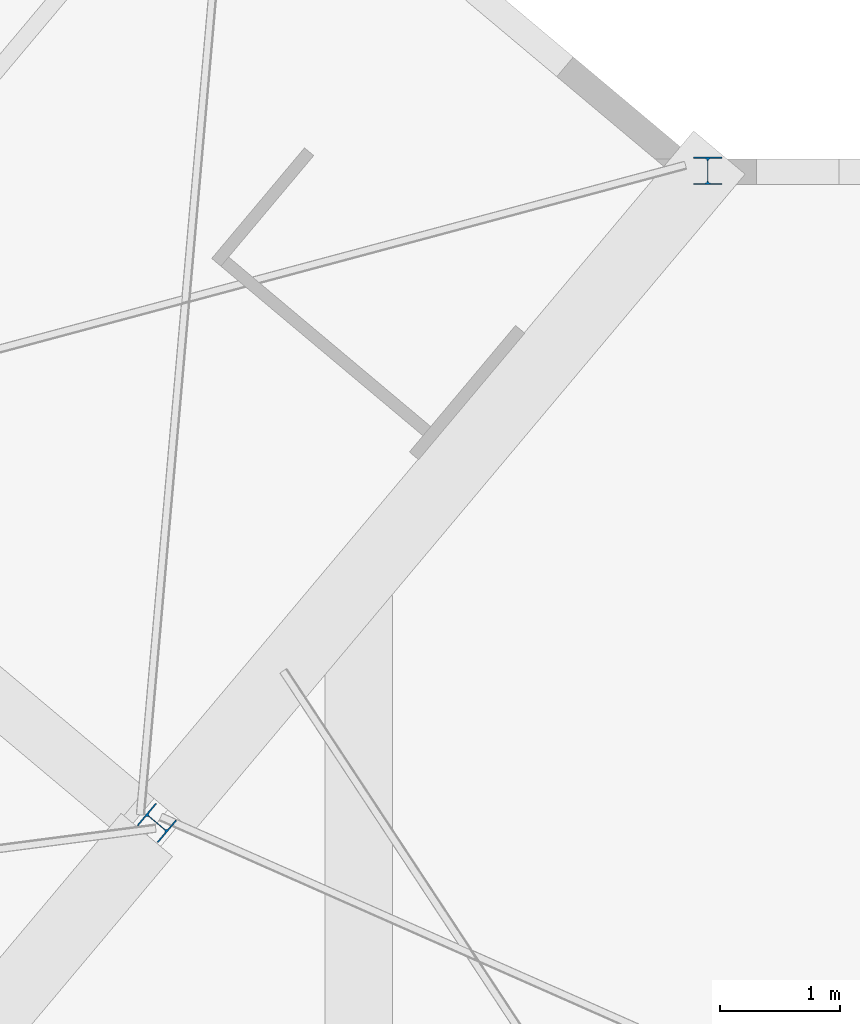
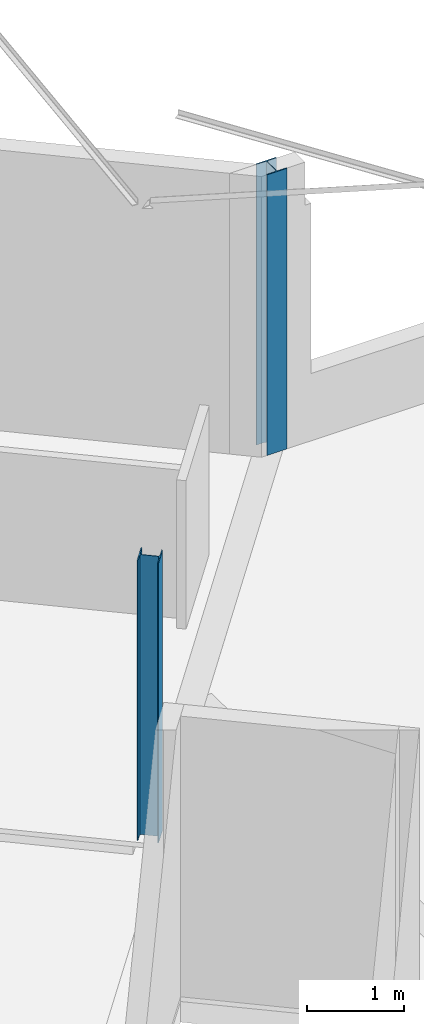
# One storey, part 8 of 25: 2 columns.
"""IFC2X3 building model written with IfcOpenShell, lengths in millimetres."""

import ifcopenshell
import ifcopenshell.guid

model = None  # the IFC model being written
_history = None  # IfcOwnerHistory: only IFC2X3 demands one
_inside = {}  # id of a spatial element -> (the spatial element, [elements in it])
_under = {}  # id of a project, library or spatial element -> (it, [spatial elements below it])
_declared = {}  # id of a project -> (the project, [libraries it declares])
_typed = {}  # id of a type object -> (the type object, [elements of that type])
_made_of = {}  # id of a material, layer set ... -> (it, [elements and type objects made of it])


def new_model(schema):
    """Start an empty IFC model of exactly this schema.

    Asked for "IFC4X3", IfcOpenShell would pick the latest addendum, in which some entities
    have other attributes; the version numbers below select the first issue.
    IFC2X3 requires an IfcOwnerHistory on every rooted entity: one is made here for all.
    """
    global model, _history
    if schema == "IFC4X3":
        model = ifcopenshell.file(schema_version=(4, 3, 0, 0))
    else:
        model = ifcopenshell.file(schema=schema)
    _inside.clear()
    _under.clear()
    _declared.clear()
    _typed.clear()
    _made_of.clear()
    _history = None
    if model.schema == "IFC2X3":
        org = make("IfcOrganization", Name="unknown")
        user = make(
            "IfcPersonAndOrganization",
            ThePerson=make("IfcPerson", FamilyName="unknown"),
            TheOrganization=org,
        )
        app = make(
            "IfcApplication",
            ApplicationDeveloper=org,
            Version="unknown",
            ApplicationFullName="unknown",
            ApplicationIdentifier="unknown",
        )
        _history = make(
            "IfcOwnerHistory",
            OwningUser=user,
            OwningApplication=app,
            ChangeAction="ADDED",
            CreationDate=0,
        )
    return model


def make(cls, **values):
    """One entity of the class cls with the attributes given. An attribute that is None is left unset."""
    return model.create_entity(
        cls, **{name: value for name, value in values.items() if value is not None}
    )


def entity(cls, *values):
    """Any entity or typed value of the class cls, its attributes in the order of the schema. None: left unset."""
    e = model.create_entity(cls)
    for i, value in enumerate(values):
        if value is not None:
            e[i] = value
    return e


def rooted(cls, **values):
    """An entity with a GlobalId (a new one), such as an element, a storey or a relation."""
    return make(cls, GlobalId=ifcopenshell.guid.new(), OwnerHistory=_history, **values)


def si_unit(unit_type, name, prefix=None):
    """IfcSIUnit, for example si_unit("LENGTHUNIT", "METRE", prefix="MILLI")."""
    return make("IfcSIUnit", UnitType=unit_type, Prefix=prefix, Name=name)


def converted_unit(unit_type, name, factor, base, dimensions=None, offset=None):
    """IfcConversionBasedUnit, such as the inch: factor (a typed value) times the base unit."""
    return make(
        "IfcConversionBasedUnit"
        if offset is None
        else "IfcConversionBasedUnitWithOffset",
        ConversionOffset=offset,
        Dimensions=None
        if dimensions is None
        else entity("IfcDimensionalExponents", *dimensions),
        UnitType=unit_type,
        Name=name,
        ConversionFactor=make(
            "IfcMeasureWithUnit", ValueComponent=factor, UnitComponent=base
        ),
    )


def derived_unit(unit_type, elements):
    """IfcDerivedUnit: a product of units, each with its exponent."""
    return make(
        "IfcDerivedUnit",
        Elements=[
            make("IfcDerivedUnitElement", Unit=unit, Exponent=power)
            for unit, power in elements
        ],
        UnitType=unit_type,
    )


def assignment(units):
    """IfcUnitAssignment: the units of a project."""
    return None if units is None else make("IfcUnitAssignment", Units=units)


def point(xyz):
    """IfcCartesianPoint."""
    return None if xyz is None else make("IfcCartesianPoint", Coordinates=xyz)


def direction(xyz):
    """IfcDirection."""
    return None if xyz is None else make("IfcDirection", DirectionRatios=xyz)


def frame(location, z_axis=None, x_axis=None):
    """IfcAxis2Placement3D, a coordinate frame: its origin and axes. An axis left out is left unset."""
    return make(
        "IfcAxis2Placement3D",
        Location=point(location),
        Axis=direction(z_axis),
        RefDirection=direction(x_axis),
    )


def frame_2d(location, x_axis=None):
    """IfcAxis2Placement2D, a coordinate frame in the plane: its origin and x axis."""
    return make(
        "IfcAxis2Placement2D", Location=point(location), RefDirection=direction(x_axis)
    )


def origin():
    """The frame at (0, 0, 0) with its axes left unset."""
    return frame((0.0, 0.0, 0.0))


def origin_2d_with_axis():
    """The frame at (0, 0) in the plane with the x axis (1, 0) written out."""
    return frame_2d((0.0, 0.0), x_axis=(1.0, 0.0))


def place(relative_to, where):
    """IfcLocalPlacement: puts the frame where relative to a parent placement (None: the world)."""
    return make(
        "IfcLocalPlacement", PlacementRelTo=relative_to, RelativePlacement=where
    )


def context(
    kind, dimensions, precision=None, world=None, true_north=None, identifier=None
):
    """IfcGeometricRepresentationContext, for example the 3D "Model" context."""
    return make(
        "IfcGeometricRepresentationContext",
        ContextIdentifier=identifier,
        ContextType=kind,
        CoordinateSpaceDimension=dimensions,
        Precision=precision,
        WorldCoordinateSystem=world,
        TrueNorth=true_north,
    )


def subcontext(parent, identifier, kind, view, scale=None):
    """IfcGeometricRepresentationSubContext, for example "Body" below "Model"."""
    return make(
        "IfcGeometricRepresentationSubContext",
        ContextIdentifier=identifier,
        ContextType=kind,
        ParentContext=parent,
        TargetScale=scale,
        TargetView=view,
    )


def project(units=None, contexts=None):
    """IfcProject with its units and contexts."""
    return rooted(
        "IfcProject",
        Name="project",
        RepresentationContexts=contexts,
        UnitsInContext=assignment(units),
    )


def spatial(cls, under=None, at=None, **own):
    """A site, building, storey or space (cls), placed at a placement, below another one or the project."""
    s = rooted(cls, ObjectPlacement=at, **own)
    if under is not None:
        _under.setdefault(under.id(), (under, []))[1].append(s)
    return s


def profile(cls, at=None, kind="AREA", **sizes):
    """A parametric profile (cls). Its sizes go by their IFC names, for example OverallWidth=200.0."""
    return make(cls, ProfileType=kind, Position=at, **sizes)


def i_section(**sizes):
    """IfcIShapeProfileDef."""
    return profile("IfcIShapeProfileDef", **sizes)


def extrude(swept, where, along, depth):
    """IfcExtrudedAreaSolid: the profile swept, set in the frame where, extruded along a direction by depth."""
    return make(
        "IfcExtrudedAreaSolid",
        SweptArea=swept,
        Position=where,
        ExtrudedDirection=direction(along),
        Depth=depth,
    )


def shape(context_of_items, identifier, shape_type, items):
    """IfcShapeRepresentation: the items that make up one representation, for example the "Body"."""
    return make(
        "IfcShapeRepresentation",
        ContextOfItems=context_of_items,
        RepresentationIdentifier=identifier,
        RepresentationType=shape_type,
        Items=items,
    )


def source(mapping_origin, context_of_items, identifier, shape_type, items):
    """IfcRepresentationMap: a shape defined once, which mapped items show again and again."""
    return make(
        "IfcRepresentationMap",
        MappingOrigin=mapping_origin,
        MappedRepresentation=shape(context_of_items, identifier, shape_type, items),
    )


def transform(
    local_origin,
    x_axis=None,
    y_axis=None,
    z_axis=None,
    scale=None,
    scale2=None,
    scale3=None,
    uniform=True,
):
    """IfcCartesianTransformationOperator3D, or its non-uniform kind. x_axis, y_axis, z_axis: its Axis1, 2, 3."""
    if uniform:
        return make(
            "IfcCartesianTransformationOperator3D",
            Axis1=direction(x_axis),
            Axis2=direction(y_axis),
            LocalOrigin=point(local_origin),
            Scale=scale,
            Axis3=direction(z_axis),
        )
    return make(
        "IfcCartesianTransformationOperator3DnonUniform",
        Axis1=direction(x_axis),
        Axis2=direction(y_axis),
        LocalOrigin=point(local_origin),
        Scale=scale,
        Axis3=direction(z_axis),
        Scale2=scale2,
        Scale3=scale3,
    )


def mapped(mapping_source, mapping_target):
    """IfcMappedItem: shows the shape of a source again, moved by a transform."""
    return make(
        "IfcMappedItem", MappingSource=mapping_source, MappingTarget=mapping_target
    )


def material(Name=None, Category=None):
    """IfcMaterial."""
    return make("IfcMaterial", Name=Name, Category=Category)


def made_of(thing, what):
    """Note that an element or type object is made of a material, layer set ...; save() writes the relation."""
    if what is not None:
        _made_of.setdefault(what.id(), (what, []))[1].append(thing)
    return thing


def type_object(cls, material=None, **own):
    """A type object (cls), such as IfcWallType, which elements share."""
    return made_of(rooted(cls, **own), material)


def type_shapes(of_type, sources):
    """Give a type object the sources (RepresentationMaps) that its elements show as mapped items."""
    of_type.RepresentationMaps = sources


def element(
    cls,
    number,
    at=None,
    inside=None,
    cuts=None,
    type_object=None,
    material=None,
    context=None,
    identifier="Body",
    shape_type=None,
    held_by="IfcProductDefinitionShape",
    body=None,
    shapes=None,
    **own,
):
    """One element of the class cls, such as IfcWall. Its Tag is "e" and its number.

    at: its placement. inside: the storey or other place that contains it. cuts: it is an
    opening in that element (IfcRelVoidsElement). A single representation is given by context,
    identifier, shape_type and body (its items); several are given by shapes. held_by: the class
    of the entity that holds the representations. save() writes the other relations.
    """
    e = rooted(cls, Tag="e%d" % number, ObjectPlacement=at, **own)
    if body is not None:
        shapes = [shape(context, identifier, shape_type, body)]
    if shapes is not None:
        e.Representation = make(held_by, Representations=shapes)
    if inside is not None:
        _inside.setdefault(inside.id(), (inside, []))[1].append(e)
    if cuts is not None:
        rooted(
            "IfcRelVoidsElement", RelatingBuildingElement=cuts, RelatedOpeningElement=e
        )
    if type_object is not None:
        _typed.setdefault(type_object.id(), (type_object, []))[1].append(e)
    return made_of(e, material)


def aggregate(whole, parts):
    """IfcRelAggregates: a whole, such as a stair, and the parts it consists of."""
    return rooted("IfcRelAggregates", RelatingObject=whole, RelatedObjects=parts)


def save(model, path):
    """Write the relations noted so far, then the file.

    IfcRelAggregates (storeys below a building ...), IfcRelContainedInSpatialStructure (elements
    in a storey), IfcRelDefinesByType, IfcRelAssociatesMaterial and IfcRelDeclares: one each for
    every whole, place, type object, material and project.
    """
    for whole, parts in _under.values():
        aggregate(whole, parts)
    for where, things in _inside.values():
        rooted(
            "IfcRelContainedInSpatialStructure",
            RelatedElements=things,
            RelatingStructure=where,
        )
    for kind, things in _typed.values():
        rooted("IfcRelDefinesByType", RelatedObjects=things, RelatingType=kind)
    for what, things in _made_of.values():
        rooted("IfcRelAssociatesMaterial", RelatedObjects=things, RelatingMaterial=what)
    for by, libraries in _declared.values():
        rooted("IfcRelDeclares", RelatingContext=by, RelatedDefinitions=libraries)
    model.write(path)


model = new_model("IFC2X3")

# Units and contexts
model_context = context("Model", 3, precision=0.01, world=origin(), true_north=direction((6.123031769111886e-17, 1.0)))
body_context = subcontext(model_context, "Body", "Model", "MODEL_VIEW")
ifc_project = project(units=[si_unit("LENGTHUNIT", "METRE", prefix="MILLI"), si_unit("AREAUNIT", "SQUARE_METRE"), si_unit("VOLUMEUNIT", "CUBIC_METRE"), derived_unit("MASSDENSITYUNIT", [(si_unit("MASSUNIT", "GRAM", prefix="KILO"), 1), (si_unit("LENGTHUNIT", "METRE"), -3)]), si_unit("MASSUNIT", "GRAM", prefix="KILO"), converted_unit("PLANEANGLEUNIT", "DEGREE", entity("IfcPlaneAngleMeasure", 0.017453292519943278), si_unit("PLANEANGLEUNIT", "RADIAN"), dimensions=[0, 0, 0, 0, 0, 0, 0])], contexts=[model_context])

# Site, building, storey
site_placement = place(None, origin())
site = spatial("IfcSite", under=ifc_project, at=site_placement, Name="Default", CompositionType="ELEMENT")
building_placement = place(site_placement, origin())
building = spatial("IfcBuilding", under=site, at=building_placement, Name="AT constructie", CompositionType="ELEMENT")
storey_placement = place(building_placement, frame((0.0, 0.0, 3864.0)))
storey = spatial("IfcBuildingStorey", under=building, at=storey_placement, Name="01 eerste verdieping", CompositionType="ELEMENT", Elevation=3864.0)

# Columns
ifc_material = material(Name="h2_staal_S355")
column_type_1 = type_object("IfcColumnType", Name="kolom_gen_HEA240", PredefinedType="COLUMN", material=ifc_material)
shared_shape_1 = source(origin(), body_context, "Body", "SweptSolid", [
    extrude(i_section(OverallWidth=239.9999999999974, OverallDepth=229.9999999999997, WebThickness=7.499999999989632, FlangeThickness=11.999999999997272, FilletRadius=21.0, at=origin_2d_with_axis()), frame((44056.31688164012, 42769.543508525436, 3814.0), z_axis=(0.0, 0.0, 1.0), x_axis=(-1.0, 0.0, 0.0)), (0.0, 0.0, 1.0), 3544.0),
])
type_shapes(column_type_1, [shared_shape_1])
column_1_placement = place(storey_placement, frame((0.0, 0.0, -3864.0)))
element("IfcColumn", 1, at=column_1_placement, inside=storey, type_object=column_type_1, material=ifc_material, Name="NLRS_28_SC_TLB_kolom HEA_gen_AT:kolom_gen_HEA240", ObjectType="NLRS_28_SC_TLB_kolom HEA_gen_AT:kolom_gen_HEA240", context=body_context, shape_type="MappedRepresentation", body=[
    mapped(shared_shape_1, transform((0.0, 0.0, 0.0), scale=1.0)),
])
column_type_2 = type_object("IfcColumnType", Name="kolom_gen_HEA240", PredefinedType="COLUMN", material=ifc_material)
shared_shape_2 = source(origin(), body_context, "Body", "SweptSolid", [
    extrude(i_section(OverallWidth=240.0000000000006, OverallDepth=229.9999999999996, WebThickness=7.499999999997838, FlangeThickness=12.000000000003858, FilletRadius=21.0, at=frame_2d((-5.5777604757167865e-12, 6.629363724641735e-12), x_axis=(1.0, 0.0))), frame((39462.76846748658, 37332.62840009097, 3814.0), z_axis=(0.0, 0.0, 1.0), x_axis=(-0.642787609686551, -0.7660444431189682, 0.0)), (0.0, 0.0, 1.0), 3533.9999999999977),
])
type_shapes(column_type_2, [shared_shape_2])
column_2_placement = place(storey_placement, frame((0.0, 0.0, -3864.0)))
element("IfcColumn", 2, at=column_2_placement, inside=storey, type_object=column_type_2, material=ifc_material, Name="NLRS_28_SC_TLB_kolom HEA_gen_AT:kolom_gen_HEA240", ObjectType="NLRS_28_SC_TLB_kolom HEA_gen_AT:kolom_gen_HEA240", context=body_context, shape_type="MappedRepresentation", body=[
    mapped(shared_shape_2, transform((0.0, 0.0, 0.0), scale=1.0)),
])

save(model, "model.ifc")
